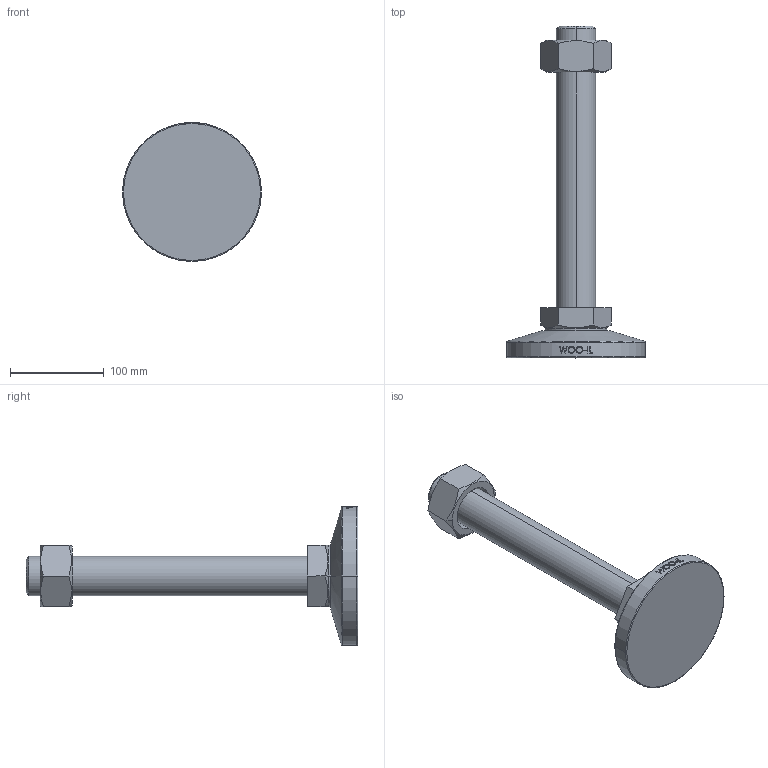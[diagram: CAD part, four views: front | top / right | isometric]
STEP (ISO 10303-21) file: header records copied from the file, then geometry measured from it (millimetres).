
FILE_DESCRIPTION (( 'STEP AP214' ), '1' );
FILE_NAME ('MFB148-M42-300.step', '2022-06-27T08:35:19', ( '' ), ( '' ), 'SwSTEP 2.0', 'SolidWorks 2019', '' );
FILE_SCHEMA (( 'AUTOMOTIVE_DESIGN' ));
Length unit declared in the file: millimetre
Products named in the file (1): MFB148-M42-300
Bounding box: 148 x 353.5 x 148 mm (x, y, z)
Volume: 993074.5 mm3; surface area: 110446.1 mm2
Topology: 3 solids, 3 shells, 97 faces, 225 edges, 144 vertices
Faces by surface type: plane 47, cylinder 16, bspline 16, cone 14, torus 4
Entity records: 4311 total; most frequent: CARTESIAN_POINT 2181, ORIENTED_EDGE 450, DIRECTION 385, EDGE_CURVE 225, AXIS2_PLACEMENT_3D 144, VERTEX_POINT 144, EDGE_LOOP 109, ADVANCED_FACE 97
